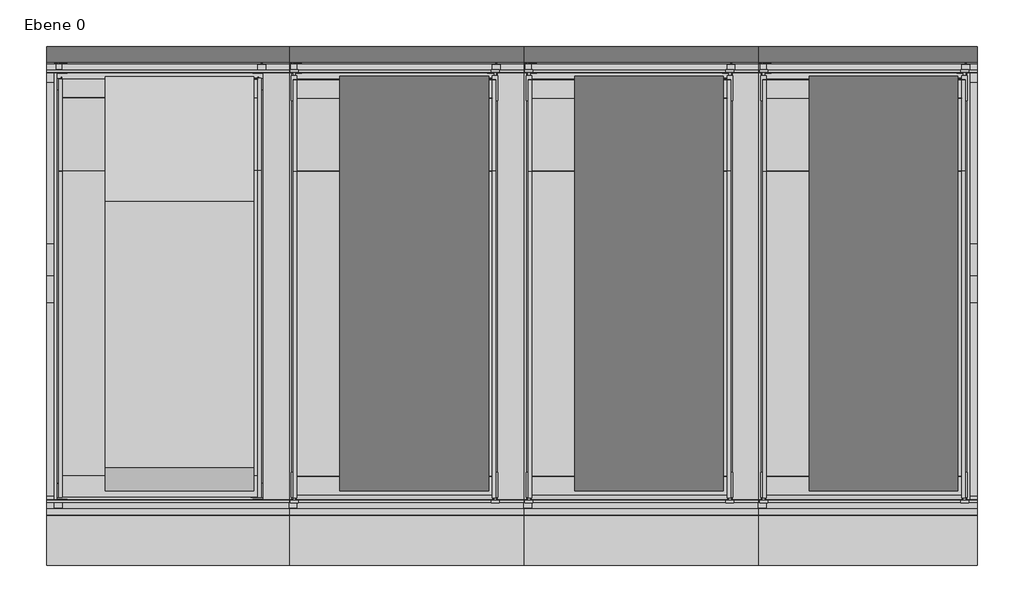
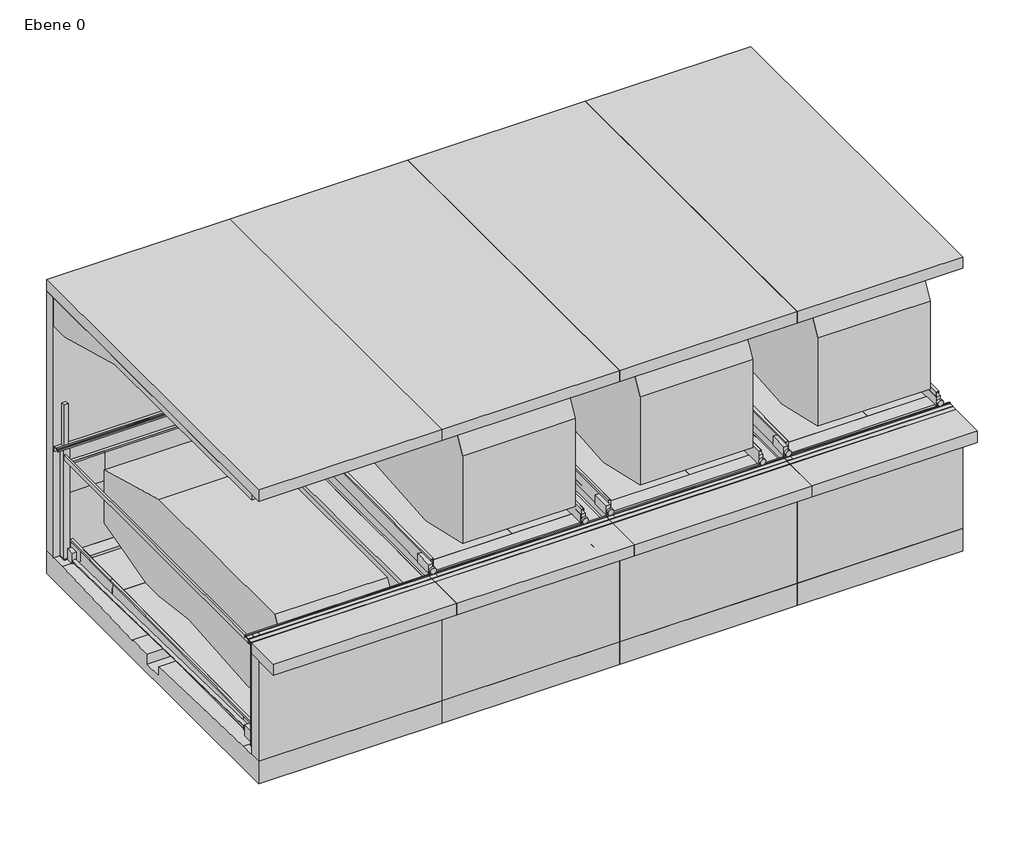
# One storey: 4 proxies.
"""IFC4 building model written with IfcOpenShell, lengths in millimetres."""

from ifc_helpers import new_model, si_unit, origin, place, context, project, spatial, transform, mapped, element, save
from components import generic_models_3caa6abb, generic_models_a79fadba, generic_models_6f618759

model = new_model("IFC4")

# Units and contexts
model_context = context("Model", 3, world=origin())
ifc_project = project(units=[si_unit("LENGTHUNIT", "METRE", prefix="MILLI")], contexts=[model_context])

# Site, building, storey
site = spatial("IfcSite", under=ifc_project)
building = spatial("IfcBuilding", under=site)
storey = spatial("IfcBuildingStorey", under=building, Name="Ebene 0", Elevation=0.0)

# Proxies
placement = place(None, origin())
generic_models_shape = generic_models_3caa6abb(model_context)
element("IfcBuildingElementProxy", 1, Name="TrendVario_6100 : TrendVario_6100", ObjectType="TrendVario_6100 : TrendVario_6100", at=placement, inside=storey, context=model_context, shape_type="MappedRepresentation", body=[
    mapped(generic_models_shape, transform((-9581.9945504, -3763.1777406, 0.0), x_axis=(1.0, 0.0, 0.0), y_axis=(0.0, 1.0, 0.0), z_axis=(0.0, 0.0, 1.0))),
])
generic_models_2_shape = generic_models_a79fadba(model_context)
element("IfcBuildingElementProxy", 2, Name="TrendVario_6100 : TrendVario_6100", ObjectType="TrendVario_6100 : TrendVario_6100", at=placement, inside=storey, context=model_context, shape_type="MappedRepresentation", body=[
    mapped(generic_models_2_shape, transform((-6582.9945504, -3763.1777406, 0.0), x_axis=(1.0, 0.0, 0.0), y_axis=(0.0, 1.0, 0.0), z_axis=(0.0, 0.0, 1.0))),
])
element("IfcBuildingElementProxy", 3, Name="TrendVario_6100 : TrendVario_6100", ObjectType="TrendVario_6100 : TrendVario_6100", at=placement, inside=storey, context=model_context, shape_type="MappedRepresentation", body=[
    mapped(generic_models_2_shape, transform((-3582.9945504, -3763.1777406, 0.0), x_axis=(1.0, 0.0, 0.0), y_axis=(0.0, 1.0, 0.0), z_axis=(0.0, 0.0, 1.0))),
])
generic_models_3_shape = generic_models_6f618759(model_context)
element("IfcBuildingElementProxy", 4, Name="TrendVario_6100 : TrendVario_6100", ObjectType="TrendVario_6100 : TrendVario_6100", at=placement, inside=storey, context=model_context, shape_type="MappedRepresentation", body=[
    mapped(generic_models_3_shape, transform((-582.9945504, -3763.1777406, 0.0), x_axis=(1.0, 0.0, 0.0), y_axis=(0.0, 1.0, 0.0), z_axis=(0.0, 0.0, 1.0))),
])

save(model, "model.ifc")
